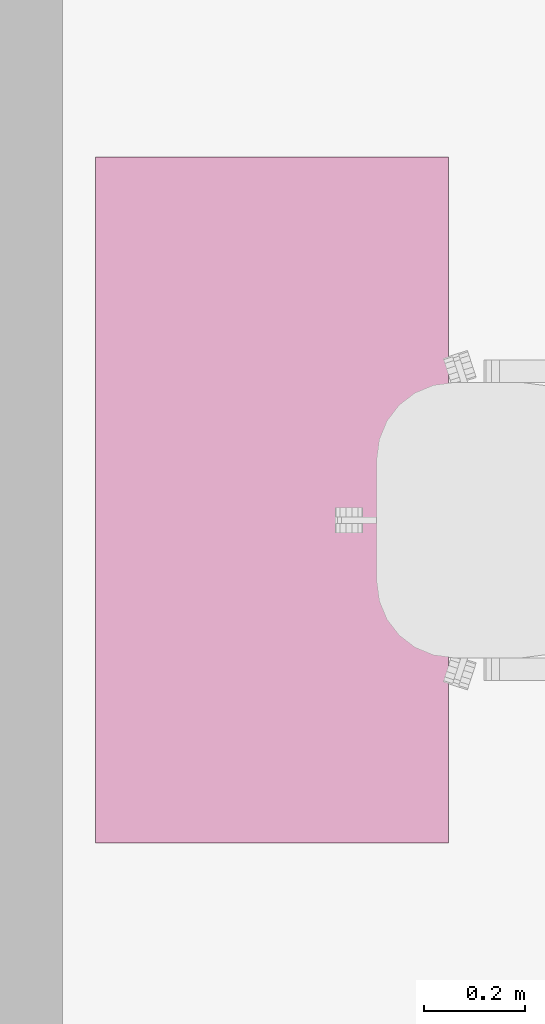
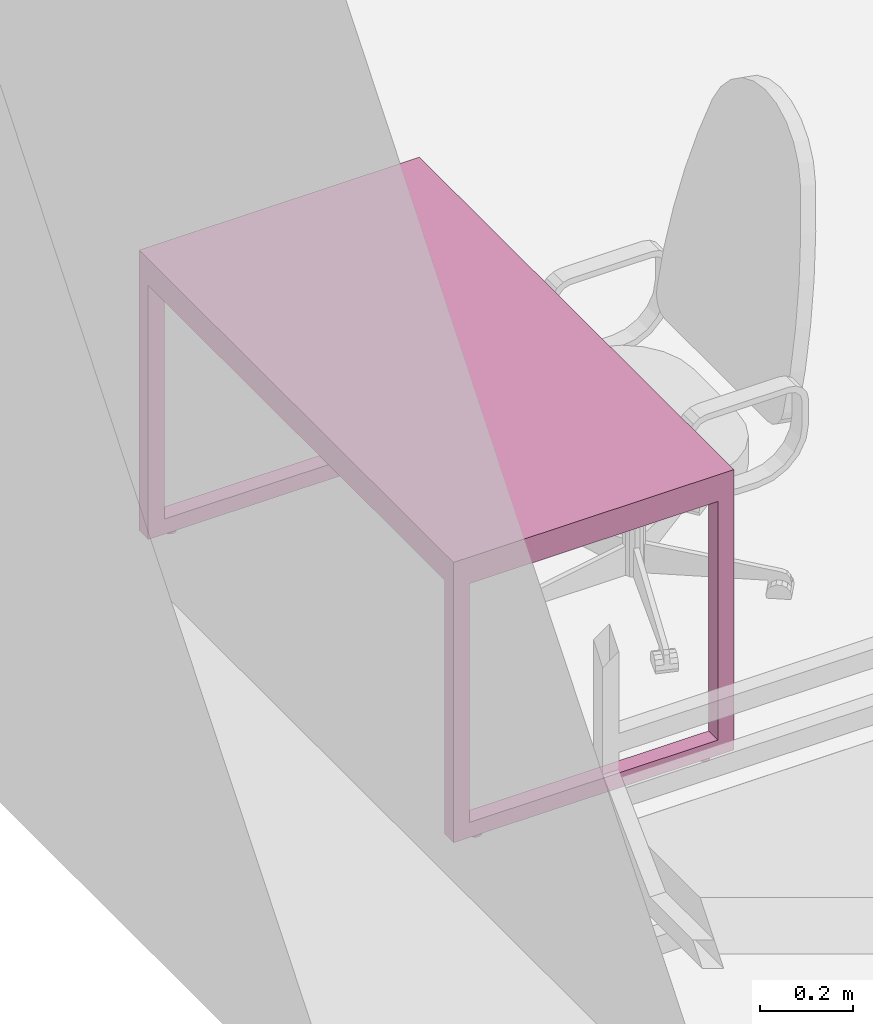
# One storey, part 23 of 48: 1 furnishing.
"""IFC2X3 building model written with IfcOpenShell, lengths in millimetres."""

from ifc_helpers import new_model, entity, si_unit, converted_unit, derived_unit, direction, frame, origin, place, context, subcontext, project, spatial, faceted_brep, source, transform, mapped, material, material_list, type_object, type_shapes, element, save


model = new_model("IFC2X3")

# Units and contexts
model_context = context("Model", 3, precision=0.01, world=origin(), true_north=direction((6.12303176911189e-17, 1.0)))
body_context = subcontext(model_context, "Body", "Model", "MODEL_VIEW")
ifc_project = project(units=[si_unit("LENGTHUNIT", "METRE", prefix="MILLI"), si_unit("AREAUNIT", "SQUARE_METRE"), si_unit("VOLUMEUNIT", "CUBIC_METRE"), converted_unit("PLANEANGLEUNIT", "DEGREE", entity("IfcRatioMeasure", 0.0174532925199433), si_unit("PLANEANGLEUNIT", "RADIAN"), dimensions=[0, 0, 0, 0, 0, 0, 0]), si_unit("MASSUNIT", "GRAM", prefix="KILO"), derived_unit("MASSDENSITYUNIT", [(si_unit("MASSUNIT", "GRAM", prefix="KILO"), 1), (si_unit("LENGTHUNIT", "METRE"), -3)]), si_unit("TIMEUNIT", "SECOND"), si_unit("FREQUENCYUNIT", "HERTZ"), si_unit("THERMODYNAMICTEMPERATUREUNIT", "DEGREE_CELSIUS"), derived_unit("THERMALTRANSMITTANCEUNIT", [(si_unit("MASSUNIT", "GRAM", prefix="KILO"), 1), (si_unit("THERMODYNAMICTEMPERATUREUNIT", "KELVIN"), -1), (si_unit("TIMEUNIT", "SECOND"), -3)]), derived_unit("VOLUMETRICFLOWRATEUNIT", [(si_unit("LENGTHUNIT", "METRE"), 3), (si_unit("TIMEUNIT", "SECOND"), -1)]), si_unit("ELECTRICCURRENTUNIT", "AMPERE"), si_unit("ELECTRICVOLTAGEUNIT", "VOLT"), si_unit("POWERUNIT", "WATT"), si_unit("FORCEUNIT", "NEWTON", prefix="KILO"), si_unit("ILLUMINANCEUNIT", "LUX"), si_unit("LUMINOUSFLUXUNIT", "LUMEN"), si_unit("LUMINOUSINTENSITYUNIT", "CANDELA"), derived_unit("USERDEFINED", [(si_unit("MASSUNIT", "GRAM", prefix="KILO"), -1), (si_unit("LENGTHUNIT", "METRE"), -2), (si_unit("TIMEUNIT", "SECOND"), 3), (si_unit("LUMINOUSFLUXUNIT", "LUMEN"), 1)]), derived_unit("LINEARVELOCITYUNIT", [(si_unit("LENGTHUNIT", "METRE"), 1), (si_unit("TIMEUNIT", "SECOND"), -1)]), si_unit("PRESSUREUNIT", "PASCAL"), derived_unit("USERDEFINED", [(si_unit("LENGTHUNIT", "METRE"), -2), (si_unit("MASSUNIT", "GRAM", prefix="KILO"), 1), (si_unit("TIMEUNIT", "SECOND"), -2)]), derived_unit("LINEARFORCEUNIT", [(si_unit("MASSUNIT", "GRAM", prefix="KILO"), 1), (si_unit("LENGTHUNIT", "METRE"), 1), (si_unit("TIMEUNIT", "SECOND"), -2), (si_unit("LENGTHUNIT", "METRE"), -1)]), derived_unit("PLANARFORCEUNIT", [(si_unit("MASSUNIT", "GRAM", prefix="KILO"), 1), (si_unit("LENGTHUNIT", "METRE"), 1), (si_unit("TIMEUNIT", "SECOND"), -2), (si_unit("LENGTHUNIT", "METRE"), -2)])], contexts=[model_context])

# Site, building, storey, space
site_placement = place(None, origin())
site = spatial("IfcSite", under=ifc_project, at=site_placement, Name="Default", CompositionType="ELEMENT")
building_placement = place(site_placement, origin())
building = spatial("IfcBuilding", under=site, at=building_placement, Name="SMA ARH", CompositionType="ELEMENT")
storey_placement = place(building_placement, frame((0.0, 0.0, 6600.0)))
storey = spatial("IfcBuildingStorey", under=building, at=storey_placement, Name="3 Korrus", CompositionType="ELEMENT", Elevation=6599.99999999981)
space_placement = place(storey_placement, origin())
space = spatial("IfcSpace", under=storey, at=space_placement, Name="3-15", CompositionType="ELEMENT", InteriorOrExteriorSpace="INTERNAL")

# Furnishing
ifc_material = material(Name="<Unnamed>")
ifc_material_list = material_list([ifc_material, ifc_material])
furniture_type = type_object("IfcFurnitureType", Name="kirjutuslaud 1360x700mm:kirjutuslaud 1360x700mm", material=ifc_material_list)
shared_shape = source(origin(), body_context, "Body", "Brep", [
    faceted_brep([(680.0, -350.0, 720.0), (680.0, 350.0, 720.0), (680.0, 350.0, 750.0), (680.0, -350.0, 750.0), (-680.0, -350.0, 720.0), (-680.0, -350.0, 750.0), (-680.0, 350.0, 750.0), (-680.0, 350.0, 720.0)], [[[0, 1, 2, 3]], [[4, 5, 6, 7]], [[1, 0, 4, 7]], [[2, 1, 7, 6]], [[3, 2, 6, 5]], [[0, 3, 5, 4]]]),
    faceted_brep([(-640.0, -310.0, 680.0), (-640.0, 310.0, 680.0), (-640.0, 310.0, 720.0), (-640.0, -310.0, 720.0), (-680.0, -350.0, 720.0), (-680.0, 350.0, 720.0), (-680.0, 350.0, 10.0), (-680.0, -350.0, 10.0), (-680.0, 310.0, 680.0), (-680.0, -310.0, 680.0), (-680.0, -310.0, 50.0), (-680.0, 310.0, 50.0), (-640.0, -350.0, 10.0), (-640.0, -350.0, 680.0), (640.0, -350.0, 680.0), (640.0, -350.0, 10.0), (680.0, -350.0, 10.0), (680.0, -350.0, 720.0), (-640.0, 350.0, 10.0), (680.0, 350.0, 720.0), (680.0, 350.0, 10.0), (640.0, 350.0, 10.0), (640.0, 350.0, 680.0), (-640.0, 350.0, 680.0), (640.0, 310.0, 720.0), (640.0, -310.0, 720.0), (-640.0, 310.0, 50.0), (-640.0, -310.0, 50.0), (640.0, -310.0, 680.0), (640.0, 310.0, 680.0), (680.0, 310.0, 680.0), (680.0, 310.0, 50.0), (680.0, -310.0, 50.0), (680.0, -310.0, 680.0), (640.0, -310.0, 50.0), (640.0, 310.0, 50.0)], [[[0, 1, 2, 3]], [[4, 5, 6, 7], [8, 9, 10, 11]], [[4, 7, 12, 13, 14, 15, 16, 17]], [[18, 12, 7, 6]], [[6, 5, 19, 20, 21, 22, 23, 18]], [[19, 5, 4, 17], [2, 24, 25, 3]], [[26, 1, 8, 11]], [[27, 26, 11, 10]], [[0, 27, 10, 9]], [[1, 0, 9, 8]], [[14, 13, 0, 28]], [[24, 2, 1, 29]], [[3, 25, 28, 0]], [[17, 16, 20, 19], [30, 31, 32, 33]], [[21, 15, 14, 28, 34, 35, 29, 22]], [[20, 16, 15, 21]], [[31, 30, 29, 35]], [[32, 31, 35, 34]], [[33, 32, 34, 28]], [[30, 33, 28, 29]], [[29, 28, 25, 24]], [[29, 1, 23, 22]], [[12, 18, 23, 1, 26, 27, 0, 13]]]),
    faceted_brep([(-663.729456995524, -270.466136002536, 0.0), (-659.847171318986, -269.955023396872, 0.0), (-655.964885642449, -270.466136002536, 0.0), (-652.347171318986, -271.964642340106, 0.0), (-649.240569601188, -274.348421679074, 0.0), (-646.85679026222, -277.455023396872, 0.0), (-645.35828392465, -281.072737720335, 0.0), (-644.847171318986, -284.955023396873, 0.0), (-645.35828392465, -288.83730907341, 0.0), (-646.85679026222, -292.455023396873, 0.0), (-649.240569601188, -295.561625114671, 0.0), (-652.347171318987, -297.945404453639, 0.0), (-655.964885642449, -299.443910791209, 0.0), (-659.847171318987, -299.955023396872, 0.0), (-663.729456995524, -299.443910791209, 0.0), (-667.347171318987, -297.945404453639, 0.0), (-670.453773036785, -295.561625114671, 0.0), (-672.837552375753, -292.455023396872, 0.0), (-674.336058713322, -288.83730907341, 0.0), (-674.847171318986, -284.955023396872, 0.0), (-674.336058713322, -281.072737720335, 0.0), (-672.837552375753, -277.455023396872, 0.0), (-670.453773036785, -274.348421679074, 0.0), (-667.347171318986, -271.964642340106, 0.0), (-655.964885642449, -299.443910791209, 10.0), (-652.347171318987, -297.945404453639, 10.0), (-649.240569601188, -295.561625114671, 10.0), (-646.85679026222, -292.455023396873, 10.0), (-645.35828392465, -288.83730907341, 10.0), (-644.847171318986, -284.955023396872, 10.0), (-645.35828392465, -281.072737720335, 10.0), (-646.85679026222, -277.455023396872, 10.0), (-649.240569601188, -274.348421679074, 10.0), (-652.347171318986, -271.964642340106, 10.0), (-655.964885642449, -270.466136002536, 10.0), (-659.847171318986, -269.955023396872, 10.0), (-663.729456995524, -270.466136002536, 10.0), (-667.347171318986, -271.964642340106, 10.0), (-670.453773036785, -274.348421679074, 10.0), (-672.837552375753, -277.455023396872, 10.0), (-674.336058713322, -281.072737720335, 10.0), (-674.847171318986, -284.955023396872, 10.0), (-674.336058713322, -288.83730907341, 10.0), (-672.837552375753, -292.455023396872, 10.0), (-670.453773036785, -295.561625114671, 10.0), (-667.347171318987, -297.945404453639, 10.0), (-663.729456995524, -299.443910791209, 10.0), (-659.847171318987, -299.955023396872, 10.0)], [[[0, 1, 2, 3, 4, 5, 6, 7, 8, 9, 10, 11, 12, 13, 14, 15, 16, 17, 18, 19, 20, 21, 22, 23]], [[24, 25, 26, 27, 28, 29, 30, 31, 32, 33, 34, 35, 36, 37, 38, 39, 40, 41, 42, 43, 44, 45, 46, 47]], [[18, 42, 41, 19]], [[17, 43, 42, 18]], [[45, 44, 16, 15]], [[17, 16, 44, 43]], [[46, 45, 15, 14]], [[47, 46, 14, 13]], [[12, 24, 47, 13]], [[11, 25, 24, 12]], [[27, 26, 10, 9]], [[11, 10, 26, 25]], [[28, 27, 9, 8]], [[29, 28, 8, 7]], [[6, 30, 29, 7]], [[5, 31, 30, 6]], [[33, 32, 4, 3]], [[5, 4, 32, 31]], [[34, 33, 3, 2]], [[35, 34, 2, 1]], [[0, 36, 35, 1]], [[23, 37, 36, 0]], [[39, 38, 22, 21]], [[23, 22, 38, 37]], [[40, 39, 21, 20]], [[41, 40, 20, 19]]]),
    faceted_brep([(-655.964885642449, 270.466136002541, 10.0), (-652.347171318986, 271.964642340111, 10.0), (-649.240569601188, 274.348421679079, 10.0), (-646.85679026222, 277.455023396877, 10.0), (-645.35828392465, 281.07273772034, 10.0), (-644.847171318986, 284.955023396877, 10.0), (-645.35828392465, 288.837309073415, 10.0), (-646.85679026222, 292.455023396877, 10.0), (-649.240569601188, 295.561625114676, 10.0), (-652.347171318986, 297.945404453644, 10.0), (-655.964885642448, 299.443910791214, 10.0), (-659.847171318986, 299.955023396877, 10.0), (-663.729456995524, 299.443910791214, 10.0), (-667.347171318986, 297.945404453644, 10.0), (-670.453773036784, 295.561625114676, 10.0), (-672.837552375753, 292.455023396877, 10.0), (-674.336058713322, 288.837309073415, 10.0), (-674.847171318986, 284.955023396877, 10.0), (-674.336058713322, 281.07273772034, 10.0), (-672.837552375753, 277.455023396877, 10.0), (-670.453773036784, 274.348421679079, 10.0), (-667.347171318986, 271.964642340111, 10.0), (-663.729456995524, 270.466136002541, 10.0), (-659.847171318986, 269.955023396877, 10.0), (-655.964885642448, 299.443910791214, 0.0), (-652.347171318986, 297.945404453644, 0.0), (-649.240569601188, 295.561625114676, 0.0), (-646.85679026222, 292.455023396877, 0.0), (-645.35828392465, 288.837309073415, 0.0), (-644.847171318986, 284.955023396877, 0.0), (-645.35828392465, 281.07273772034, 0.0), (-646.85679026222, 277.455023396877, 0.0), (-649.240569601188, 274.348421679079, 0.0), (-652.347171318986, 271.964642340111, 0.0), (-655.964885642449, 270.466136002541, 0.0), (-659.847171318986, 269.955023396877, 0.0), (-663.729456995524, 270.466136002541, 0.0), (-667.347171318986, 271.964642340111, 0.0), (-670.453773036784, 274.348421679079, 0.0), (-672.837552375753, 277.455023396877, 0.0), (-674.336058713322, 281.07273772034, 0.0), (-674.847171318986, 284.955023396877, 0.0), (-674.336058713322, 288.837309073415, 0.0), (-672.837552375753, 292.455023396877, 0.0), (-670.453773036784, 295.561625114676, 0.0), (-667.347171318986, 297.945404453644, 0.0), (-663.729456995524, 299.443910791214, 0.0), (-659.847171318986, 299.955023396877, 0.0)], [[[0, 1, 2, 3, 4, 5, 6, 7, 8, 9, 10, 11, 12, 13, 14, 15, 16, 17, 18, 19, 20, 21, 22, 23]], [[24, 25, 26, 27, 28, 29, 30, 31, 32, 33, 34, 35, 36, 37, 38, 39, 40, 41, 42, 43, 44, 45, 46, 47]], [[40, 18, 17, 41]], [[39, 19, 18, 40]], [[21, 20, 38, 37]], [[39, 38, 20, 19]], [[22, 21, 37, 36]], [[23, 22, 36, 35]], [[34, 0, 23, 35]], [[33, 1, 0, 34]], [[3, 2, 32, 31]], [[33, 32, 2, 1]], [[4, 3, 31, 30]], [[5, 4, 30, 29]], [[28, 6, 5, 29]], [[27, 7, 6, 28]], [[9, 8, 26, 25]], [[27, 26, 8, 7]], [[10, 9, 25, 24]], [[11, 10, 24, 47]], [[46, 12, 11, 47]], [[45, 13, 12, 46]], [[15, 14, 44, 43]], [[45, 44, 14, 13]], [[16, 15, 43, 42]], [[17, 16, 42, 41]]]),
    faceted_brep([(656.270543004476, -270.466136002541, 0.0), (660.152828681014, -269.955023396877, 0.0), (664.035114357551, -270.466136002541, 0.0), (667.652828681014, -271.96464234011, 0.0), (670.759430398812, -274.348421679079, 0.0), (673.14320973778, -277.455023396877, 0.0), (674.64171607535, -281.072737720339, 0.0), (675.152828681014, -284.955023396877, 0.0), (674.64171607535, -288.837309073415, 0.0), (673.14320973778, -292.455023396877, 0.0), (670.759430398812, -295.561625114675, 0.0), (667.652828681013, -297.945404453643, 0.0), (664.035114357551, -299.443910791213, 0.0), (660.152828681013, -299.955023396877, 0.0), (656.270543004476, -299.443910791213, 0.0), (652.652828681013, -297.945404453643, 0.0), (649.546226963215, -295.561625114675, 0.0), (647.162447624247, -292.455023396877, 0.0), (645.663941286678, -288.837309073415, 0.0), (645.152828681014, -284.955023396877, 0.0), (645.663941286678, -281.072737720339, 0.0), (647.162447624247, -277.455023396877, 0.0), (649.546226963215, -274.348421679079, 0.0), (652.652828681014, -271.96464234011, 0.0), (664.035114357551, -299.443910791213, 10.0), (667.652828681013, -297.945404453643, 10.0), (670.759430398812, -295.561625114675, 10.0), (673.14320973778, -292.455023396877, 10.0), (674.64171607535, -288.837309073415, 10.0), (675.152828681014, -284.955023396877, 10.0), (674.64171607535, -281.072737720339, 10.0), (673.14320973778, -277.455023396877, 10.0), (670.759430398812, -274.348421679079, 10.0), (667.652828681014, -271.96464234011, 10.0), (664.035114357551, -270.466136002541, 10.0), (660.152828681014, -269.955023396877, 10.0), (656.270543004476, -270.466136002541, 10.0), (652.652828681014, -271.96464234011, 10.0), (649.546226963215, -274.348421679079, 10.0), (647.162447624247, -277.455023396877, 10.0), (645.663941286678, -281.072737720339, 10.0), (645.152828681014, -284.955023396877, 10.0), (645.663941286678, -288.837309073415, 10.0), (647.162447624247, -292.455023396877, 10.0), (649.546226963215, -295.561625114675, 10.0), (652.652828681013, -297.945404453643, 10.0), (656.270543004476, -299.443910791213, 10.0), (660.152828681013, -299.955023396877, 10.0)], [[[0, 1, 2, 3, 4, 5, 6, 7, 8, 9, 10, 11, 12, 13, 14, 15, 16, 17, 18, 19, 20, 21, 22, 23]], [[24, 25, 26, 27, 28, 29, 30, 31, 32, 33, 34, 35, 36, 37, 38, 39, 40, 41, 42, 43, 44, 45, 46, 47]], [[18, 42, 41, 19]], [[17, 43, 42, 18]], [[45, 44, 16, 15]], [[17, 16, 44, 43]], [[46, 45, 15, 14]], [[47, 46, 14, 13]], [[12, 24, 47, 13]], [[11, 25, 24, 12]], [[27, 26, 10, 9]], [[11, 10, 26, 25]], [[28, 27, 9, 8]], [[29, 28, 8, 7]], [[6, 30, 29, 7]], [[5, 31, 30, 6]], [[33, 32, 4, 3]], [[5, 4, 32, 31]], [[34, 33, 3, 2]], [[35, 34, 2, 1]], [[0, 36, 35, 1]], [[23, 37, 36, 0]], [[39, 38, 22, 21]], [[23, 22, 38, 37]], [[40, 39, 21, 20]], [[41, 40, 20, 19]]]),
    faceted_brep([(664.035114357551, 270.466136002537, 10.0), (667.652828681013, 271.964642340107, 10.0), (670.759430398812, 274.348421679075, 10.0), (673.14320973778, 277.455023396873, 10.0), (674.64171607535, 281.072737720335, 10.0), (675.152828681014, 284.955023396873, 10.0), (674.64171607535, 288.837309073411, 10.0), (673.14320973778, 292.455023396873, 10.0), (670.759430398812, 295.561625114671, 10.0), (667.652828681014, 297.94540445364, 10.0), (664.035114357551, 299.443910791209, 10.0), (660.152828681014, 299.955023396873, 10.0), (656.270543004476, 299.443910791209, 10.0), (652.652828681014, 297.94540445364, 10.0), (649.546226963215, 295.561625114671, 10.0), (647.162447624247, 292.455023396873, 10.0), (645.663941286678, 288.837309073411, 10.0), (645.152828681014, 284.955023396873, 10.0), (645.663941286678, 281.072737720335, 10.0), (647.162447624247, 277.455023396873, 10.0), (649.546226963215, 274.348421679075, 10.0), (652.652828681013, 271.964642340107, 10.0), (656.270543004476, 270.466136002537, 10.0), (660.152828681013, 269.955023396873, 10.0), (664.035114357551, 299.443910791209, 0.0), (667.652828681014, 297.94540445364, 0.0), (670.759430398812, 295.561625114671, 0.0), (673.14320973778, 292.455023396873, 0.0), (674.64171607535, 288.837309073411, 0.0), (675.152828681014, 284.955023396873, 0.0), (674.64171607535, 281.072737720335, 0.0), (673.14320973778, 277.455023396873, 0.0), (670.759430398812, 274.348421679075, 0.0), (667.652828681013, 271.964642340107, 0.0), (664.035114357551, 270.466136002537, 0.0), (660.152828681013, 269.955023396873, 0.0), (656.270543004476, 270.466136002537, 0.0), (652.652828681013, 271.964642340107, 0.0), (649.546226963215, 274.348421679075, 0.0), (647.162447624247, 277.455023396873, 0.0), (645.663941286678, 281.072737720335, 0.0), (645.152828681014, 284.955023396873, 0.0), (645.663941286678, 288.837309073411, 0.0), (647.162447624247, 292.455023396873, 0.0), (649.546226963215, 295.561625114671, 0.0), (652.652828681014, 297.94540445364, 0.0), (656.270543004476, 299.443910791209, 0.0), (660.152828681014, 299.955023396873, 0.0)], [[[0, 1, 2, 3, 4, 5, 6, 7, 8, 9, 10, 11, 12, 13, 14, 15, 16, 17, 18, 19, 20, 21, 22, 23]], [[24, 25, 26, 27, 28, 29, 30, 31, 32, 33, 34, 35, 36, 37, 38, 39, 40, 41, 42, 43, 44, 45, 46, 47]], [[40, 18, 17, 41]], [[39, 19, 18, 40]], [[21, 20, 38, 37]], [[39, 38, 20, 19]], [[22, 21, 37, 36]], [[23, 22, 36, 35]], [[34, 0, 23, 35]], [[33, 1, 0, 34]], [[3, 2, 32, 31]], [[33, 32, 2, 1]], [[4, 3, 31, 30]], [[5, 4, 30, 29]], [[28, 6, 5, 29]], [[27, 7, 6, 28]], [[9, 8, 26, 25]], [[27, 26, 8, 7]], [[10, 9, 25, 24]], [[11, 10, 24, 47]], [[46, 12, 11, 47]], [[45, 13, 12, 46]], [[15, 14, 44, 43]], [[45, 44, 14, 13]], [[16, 15, 43, 42]], [[17, 16, 42, 41]]]),
])
type_shapes(furniture_type, [shared_shape])
furnishing_placement = place(space_placement, frame((415.923761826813, 3741.8985721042, 0.0), z_axis=(0.0, 0.0, 1.0), x_axis=(0.0, -1.0, 0.0)))
element("IfcFurnishingElement", 1, at=furnishing_placement, inside=space, type_object=furniture_type, Name="kirjutuslaud 1360x700mm:kirjutuslaud 1360x700mm", ObjectType="kirjutuslaud 1360x700mm:kirjutuslaud 1360x700mm", context=body_context, shape_type="MappedRepresentation", body=[
    mapped(shared_shape, transform((0.0, 0.0, 0.0), scale=1.0)),
])

save(model, "model.ifc")
